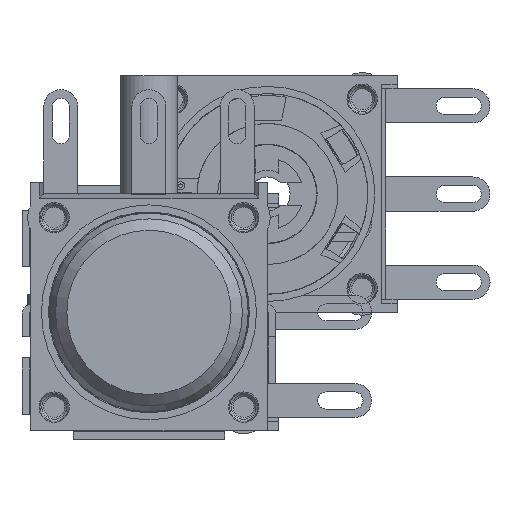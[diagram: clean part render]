
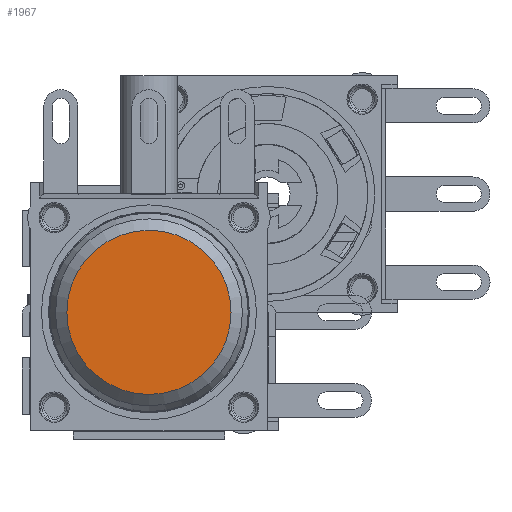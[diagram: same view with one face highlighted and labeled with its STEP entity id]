
A CAD part, left-side view. The second image highlights one B-rep face of the part: STEP entity #1967.
In plain terms, the highlighted planar face has unit normal (-1, 0, 0) as drawn and (0, 0, 1) by its records, which use the part's own axes.
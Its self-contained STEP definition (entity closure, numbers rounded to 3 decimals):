
#1967 = ADVANCED_FACE( '', ( #4394 ), #4395, .T. );
#4394 = FACE_OUTER_BOUND( '', #7068, .T. );
#4395 = PLANE( '', #7069 );
#7068 = EDGE_LOOP( '', ( #13078 ) );
#7069 = AXIS2_PLACEMENT_3D( '', #13079, #13080, #13081 );
#13078 = ORIENTED_EDGE( '', *, *, #16502, .T. );
#13079 = CARTESIAN_POINT( '', ( 0., 0., 1.4 ) );
#13080 = DIRECTION( '', ( 0., 0., 1. ) );
#13081 = DIRECTION( '', ( 1., 0., 0. ) );
#16502 = EDGE_CURVE( '', #19823, #19823, #19824, .T. );
#19823 = VERTEX_POINT( '', #25339 );
#19824 = CIRCLE( '', #25340, 4.334 );
#25339 = CARTESIAN_POINT( '', ( 4.334, 0., 1.4 ) );
#25340 = AXIS2_PLACEMENT_3D( '', #29010, #29011, #29012 );
#29010 = CARTESIAN_POINT( '', ( 0., 0., 1.4 ) );
#29011 = DIRECTION( '', ( 0., 0., 1. ) );
#29012 = DIRECTION( '', ( 1., 0., 0. ) );
